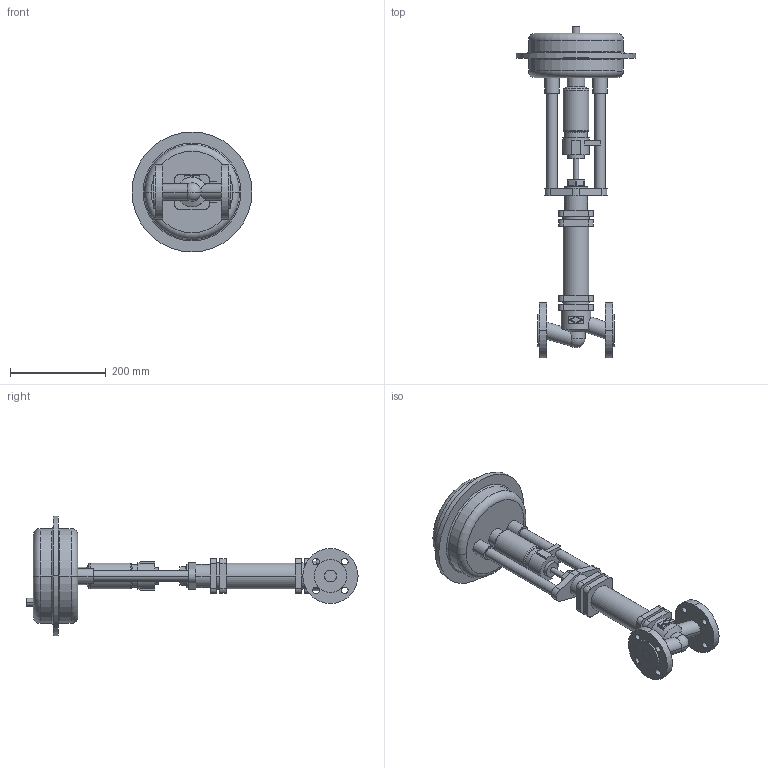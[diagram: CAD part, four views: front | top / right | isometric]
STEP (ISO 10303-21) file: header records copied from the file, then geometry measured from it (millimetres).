
FILE_DESCRIPTION(('OneSpaceDesigner STEP Export'),'2;1');
FILE_NAME('c000000375.stp','2005-12-12T10:36:53',(''),(''),'OneSpace Designer STEP processor for AP203 (Solid Model)','OneSpace Designer 13.20A 18-Aug-2005 (C) CoCreate Software GmbH','');
FILE_SCHEMA(('CONFIG_CONTROL_DESIGN'));
Length unit declared in the file: millimetre
Products named in the file (1): 1
Bounding box: 250 x 692.5 x 250 mm (x, y, z)
Volume: 4894325.9 mm3; surface area: 374429.4 mm2
Topology: 1 solids, 1 shells, 215 faces, 529 edges, 345 vertices
Faces by surface type: cylinder 102, plane 89, torus 16, cone 6, sphere 2
Entity records: 6008 total; most frequent: CARTESIAN_POINT 1145, ORIENTED_EDGE 1054, DIRECTION 915, EDGE_CURVE 527, VERTEX_POINT 345, AXIS2_PLACEMENT_3D 328, EDGE_LOOP 266, VECTOR 259
